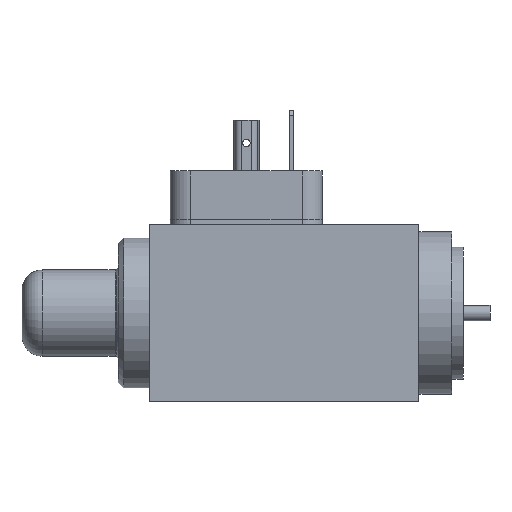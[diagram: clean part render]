
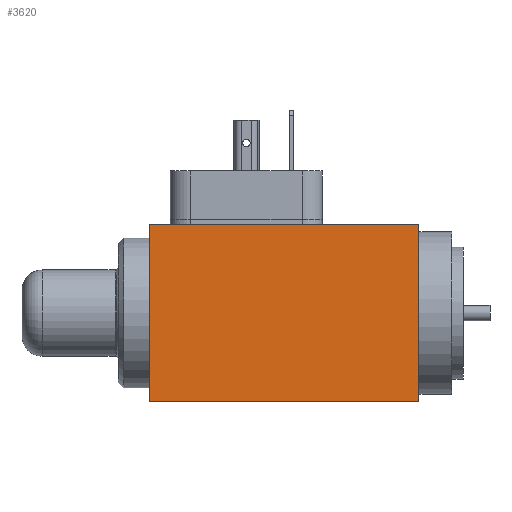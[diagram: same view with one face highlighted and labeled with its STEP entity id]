
A CAD part, front view. The second image highlights one B-rep face of the part: STEP entity #3620.
In plain terms, the highlighted planar face has unit normal (0, -1, 0).
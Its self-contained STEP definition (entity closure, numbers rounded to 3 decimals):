
#3620=ADVANCED_FACE('', (#3630), #3640, .T.);
#13090=AXIS2_PLACEMENT_3D('Ax2Pl3d', #13100, #13110, #13120);
#29600=CARTESIAN_POINT('', (53.,0.,35.));
#29610=CARTESIAN_POINT('', (53.,0.,35.));
#29620=CARTESIAN_POINT('', (53.,0.,0.));
#29760=CARTESIAN_POINT('', (0.,0.,35.));
#29770=CARTESIAN_POINT('', (0.,0.,35.));
#29930=CARTESIAN_POINT('', (0.,0.,0.));
#29940=CARTESIAN_POINT('', (0.,0.,0.));
#13100=CARTESIAN_POINT('HicPkt', (53.,0.,35.));
#29990=CARTESIAN_POINT('', (53.,0.,0.));
#44690=DIRECTION('', (0.,0.,1.));
#44740=DIRECTION('', (-1.,0.,0.));
#44780=DIRECTION('', (0.,0.,-1.));
#13110=DIRECTION('Axis', (0.,-1.,
0.));
#13120=DIRECTION('RefDirection', (0.,
0.,-1.));
#44790=DIRECTION('', (1.,0.,0.));
#49060=EDGE_CURVE('', #49070, #49040, #49080, .T.);
#49340=EDGE_CURVE('', #49040, #49320, #49350, .T.);
#49660=EDGE_CURVE('', #49320, #49640, #49670, .T.);
#49760=EDGE_CURVE('', #49640, #49070, #49770, .T.);
#57380=EDGE_LOOP('Edge_loop', (#57390,#57400,#57410,#57420));
#3630=FACE_OUTER_BOUND('Face_outer_bound', #57380, .T.);
#49080=LINE('Line', #29610, #65390);
#49350=LINE('Line', #29770, #65440);
#49670=LINE('Line', #29940, #65480);
#49770=LINE('Line', #29990, #65490);
#57390=ORIENTED_EDGE('', *, *, #49340, .T.);
#57400=ORIENTED_EDGE('', *, *, #49660, .T.);
#57410=ORIENTED_EDGE('', *, *, #49760, .T.);
#57420=ORIENTED_EDGE('', *, *, #49060, .T.);
#3640=PLANE('Plane', #13090);
#65390=VECTOR('', #44690, 35.);
#65440=VECTOR('', #44740, 53.);
#65480=VECTOR('', #44780, 35.);
#65490=VECTOR('', #44790, 53.);
#49040=VERTEX_POINT('', #29600);
#49070=VERTEX_POINT('', #29620);
#49320=VERTEX_POINT('', #29760);
#49640=VERTEX_POINT('', #29930);
